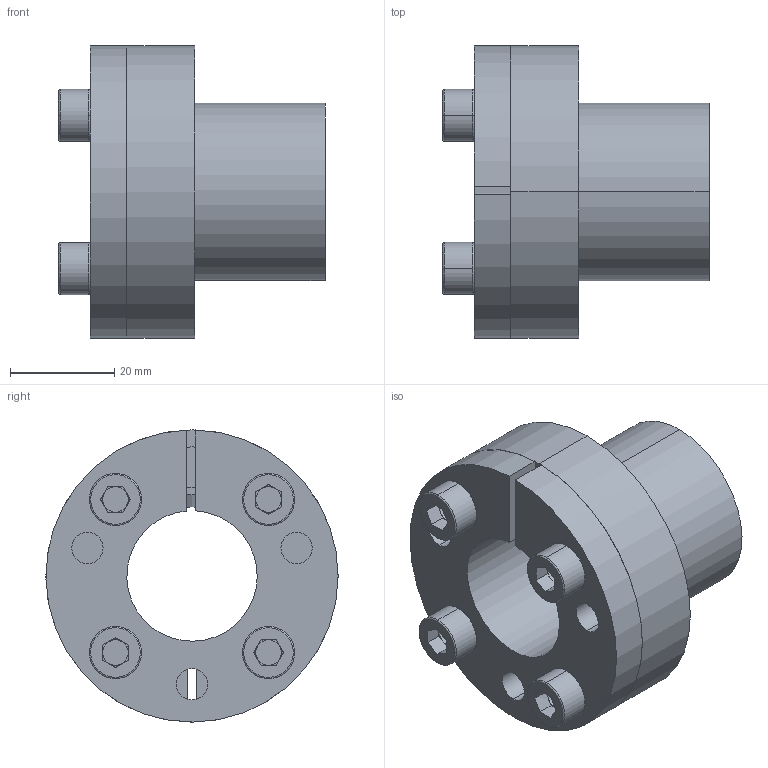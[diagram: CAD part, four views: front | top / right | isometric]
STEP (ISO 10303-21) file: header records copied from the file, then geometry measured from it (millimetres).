
FILE_DESCRIPTION (( 'STEP AP203' ), '1' );
FILE_NAME ('SAPL-T-25-34.STEP', '2017-10-12T03:50:34', ( 'MYCOM' ), ( '' ), 'SwSTEP 2.0', 'SolidWorks 2015', '' );
FILE_SCHEMA (( 'CONFIG_CONTROL_DESIGN' ));
Length unit declared in the file: millimetre
Products named in the file (1): SAPL-T-25-34
Bounding box: 51 x 56 x 56 mm (x, y, z)
Surface area: 24892.4 mm2 (no closed solid volume)
Topology: 0 solids, 11 shells, 131 faces, 344 edges, 225 vertices
Faces by surface type: plane 63, cylinder 42, bspline 16, cone 10
Entity records: 5503 total; most frequent: CARTESIAN_POINT 2277, DIRECTION 644, ORIENTED_EDGE 628, EDGE_CURVE 344, AXIS2_PLACEMENT_3D 242, VERTEX_POINT 225, LINE 160, VECTOR 160
